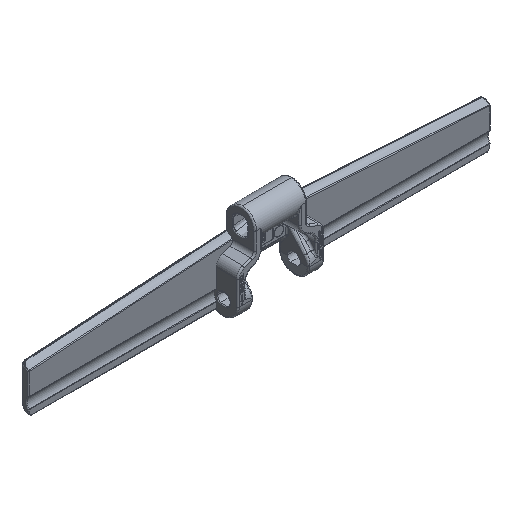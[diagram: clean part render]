
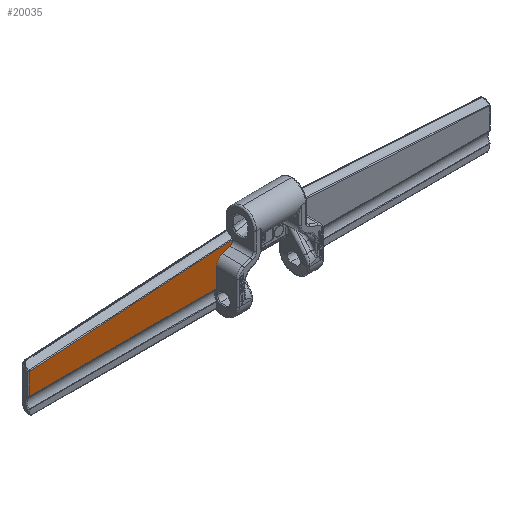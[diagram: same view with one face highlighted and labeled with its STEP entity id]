
A CAD part, isometric view. The second image highlights one B-rep face of the part: STEP entity #20035.
In plain terms, the highlighted planar face has unit normal (0, -1, 0).
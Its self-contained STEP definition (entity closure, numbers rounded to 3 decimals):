
#466 = CARTESIAN_POINT ( 'NONE',  ( -151.8, 4.7, -34.133 ) ) ;
#507 =( BOUNDED_CURVE ( )  B_SPLINE_CURVE ( 3, ( #4383, #2517, #3947, #16087 ),
 .UNSPECIFIED., .F., .F. ) 
 B_SPLINE_CURVE_WITH_KNOTS ( ( 4, 4 ),
 ( 4.712, 5.934 ),
 .UNSPECIFIED. ) 
 CURVE ( )  GEOMETRIC_REPRESENTATION_ITEM ( )  RATIONAL_B_SPLINE_CURVE ( ( 1., 0.879, 0.879, 1. ) ) 
 REPRESENTATION_ITEM ( '' )  );
#1140 = DIRECTION ( 'NONE',  ( -0.94, 0., -0.342 ) ) ;
#1216 = ORIENTED_EDGE ( 'NONE', *, *, #7735, .T. ) ;
#1272 = CARTESIAN_POINT ( 'NONE',  ( -17.53, 4.7, -12.746 ) ) ;
#1349 = DIRECTION ( 'NONE',  ( 0., 0., -1. ) ) ;
#1515 = VERTEX_POINT ( 'NONE', #4399 ) ;
#1546 = PLANE ( 'NONE',  #2018 ) ;
#2018 = AXIS2_PLACEMENT_3D ( 'NONE', #14771, #9586, #2860 ) ;
#2517 = CARTESIAN_POINT ( 'NONE',  ( -28.5, 4.7, -19.098 ) ) ;
#2670 = LINE ( 'NONE', #14687, #19638 ) ;
#2860 = DIRECTION ( 'NONE',  ( 0., 0., -1. ) ) ;
#3196 = VERTEX_POINT ( 'NONE', #17594 ) ;
#3456 = CARTESIAN_POINT ( 'NONE',  ( -151.8, 4.7, -19.685 ) ) ;
#3947 = CARTESIAN_POINT ( 'NONE',  ( -27.003, 4.7, -16.96 ) ) ;
#3983 = LINE ( 'NONE', #466, #13763 ) ;
#4034 = CARTESIAN_POINT ( 'NONE',  ( -17.501, 4.7, -11.47 ) ) ;
#4383 = CARTESIAN_POINT ( 'NONE',  ( -28.5, 4.7, -21.707 ) ) ;
#4399 = CARTESIAN_POINT ( 'NONE',  ( -19.474, 4.7, -14.22 ) ) ;
#5105 = VERTEX_POINT ( 'NONE', #17636 ) ;
#5296 = EDGE_CURVE ( 'NONE', #7200, #18790, #12033, .T. ) ;
#5751 = DIRECTION ( 'NONE',  ( 0., 0., -1. ) ) ;
#6143 = ORIENTED_EDGE ( 'NONE', *, *, #21830, .F. ) ;
#6620 = ORIENTED_EDGE ( 'NONE', *, *, #20797, .T. ) ;
#6807 = DIRECTION ( 'NONE',  ( 1., 0., 0. ) ) ;
#7022 = LINE ( 'NONE', #10210, #9062 ) ;
#7200 = VERTEX_POINT ( 'NONE', #4034 ) ;
#7735 = EDGE_CURVE ( 'NONE', #18790, #21652, #3983, .T. ) ;
#8000 = CARTESIAN_POINT ( 'NONE',  ( -17.501, 4.7, -11.47 ) ) ;
#8178 = ORIENTED_EDGE ( 'NONE', *, *, #5296, .T. ) ;
#9062 = VECTOR ( 'NONE', #6807, 1000. ) ;
#9542 = CARTESIAN_POINT ( 'NONE',  ( -151.8, 4.7, -33.937 ) ) ;
#9586 = DIRECTION ( 'NONE',  ( 0., -1., 0. ) ) ;
#9643 =( BOUNDED_CURVE ( )  B_SPLINE_CURVE ( 3, ( #16388, #12841, #1272, #8000 ),
 .UNSPECIFIED., .F., .F. ) 
 B_SPLINE_CURVE_WITH_KNOTS ( ( 4, 4 ),
 ( 2.531, 3.729 ),
 .UNSPECIFIED. ) 
 CURVE ( )  GEOMETRIC_REPRESENTATION_ITEM ( )  RATIONAL_B_SPLINE_CURVE ( ( 1., 0.884, 0.884, 1. ) ) 
 REPRESENTATION_ITEM ( '' )  );
#10060 = DIRECTION ( 'NONE',  ( -0.998, 0., -0.061 ) ) ;
#10210 = CARTESIAN_POINT ( 'NONE',  ( -28.5, 4.7, -33.937 ) ) ;
#10779 = ORIENTED_EDGE ( 'NONE', *, *, #21264, .T. ) ;
#12033 = LINE ( 'NONE', #13585, #13006 ) ;
#12841 = CARTESIAN_POINT ( 'NONE',  ( -18.274, 4.7, -13.783 ) ) ;
#12930 = VERTEX_POINT ( 'NONE', #18684 ) ;
#13006 = VECTOR ( 'NONE', #10060, 1000. ) ;
#13585 = CARTESIAN_POINT ( 'NONE',  ( 152.466, 4.7, -1.075 ) ) ;
#13763 = VECTOR ( 'NONE', #5751, 1000. ) ;
#14309 = ORIENTED_EDGE ( 'NONE', *, *, #20543, .T. ) ;
#14617 = VECTOR ( 'NONE', #1140, 1000. ) ;
#14687 = CARTESIAN_POINT ( 'NONE',  ( -28.5, 4.7, -47.5 ) ) ;
#14771 = CARTESIAN_POINT ( 'NONE',  ( 152.4, 4.7, 0. ) ) ;
#14952 = EDGE_LOOP ( 'NONE', ( #1216, #14309, #18886, #10779, #6143, #6620, #8178 ) ) ;
#16087 = CARTESIAN_POINT ( 'NONE',  ( -24.552, 4.7, -16.068 ) ) ;
#16365 = CARTESIAN_POINT ( 'NONE',  ( 136.865, 4.7, 42.683 ) ) ;
#16388 = CARTESIAN_POINT ( 'NONE',  ( -19.474, 4.7, -14.22 ) ) ;
#17594 = CARTESIAN_POINT ( 'NONE',  ( -28.5, 4.7, -33.937 ) ) ;
#17636 = CARTESIAN_POINT ( 'NONE',  ( -24.552, 4.7, -16.068 ) ) ;
#18063 = EDGE_CURVE ( 'NONE', #12930, #3196, #2670, .T. ) ;
#18684 = CARTESIAN_POINT ( 'NONE',  ( -28.5, 4.7, -21.707 ) ) ;
#18790 = VERTEX_POINT ( 'NONE', #3456 ) ;
#18886 = ORIENTED_EDGE ( 'NONE', *, *, #18063, .F. ) ;
#19638 = VECTOR ( 'NONE', #1349, 1000. ) ;
#20035 = ADVANCED_FACE ( 'NONE', ( #21637 ), #1546, .T. ) ;
#20543 = EDGE_CURVE ( 'NONE', #21652, #3196, #7022, .T. ) ;
#20797 = EDGE_CURVE ( 'NONE', #1515, #7200, #9643, .T. ) ;
#21264 = EDGE_CURVE ( 'NONE', #12930, #5105, #507, .T. ) ;
#21571 = LINE ( 'NONE', #16365, #14617 ) ;
#21637 = FACE_OUTER_BOUND ( 'NONE', #14952, .T. ) ;
#21652 = VERTEX_POINT ( 'NONE', #9542 ) ;
#21830 = EDGE_CURVE ( 'NONE', #1515, #5105, #21571, .T. ) ;
